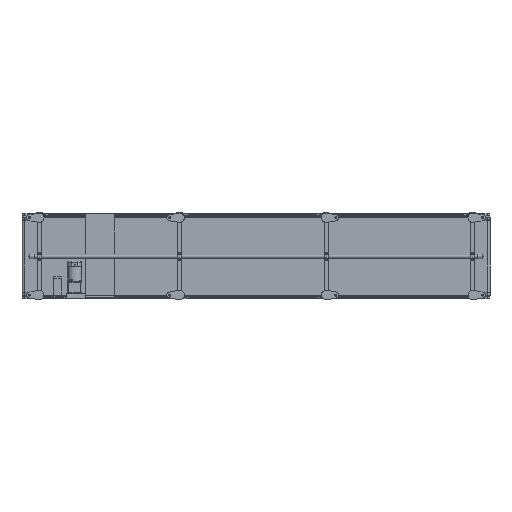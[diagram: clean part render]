
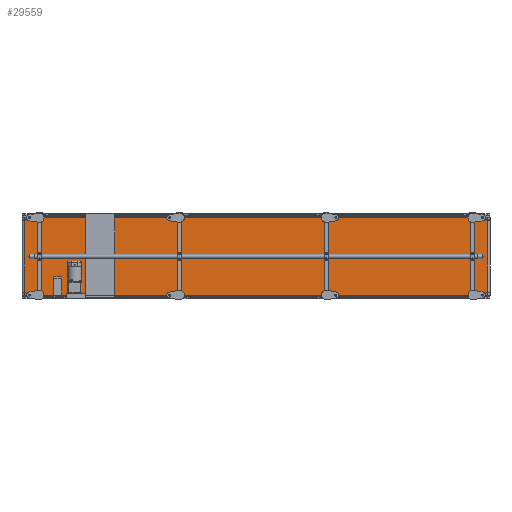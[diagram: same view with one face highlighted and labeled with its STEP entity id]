
A CAD part, front view. The second image highlights one B-rep face of the part: STEP entity #29559.
In plain terms, the highlighted planar face has unit normal (0, -1, 0).
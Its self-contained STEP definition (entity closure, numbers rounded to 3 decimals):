
#1798 = VERTEX_POINT ( 'NONE', #70794 ) ;
#3477 = EDGE_CURVE ( 'NONE', #1798, #60567, #24602, .T. ) ;
#4283 = CARTESIAN_POINT ( 'NONE',  ( 14., -26.8, 250. ) ) ;
#11231 = PLANE ( 'NONE',  #86926 ) ;
#12073 = DIRECTION ( 'NONE',  ( 0., 0., -1. ) ) ;
#12239 = DIRECTION ( 'NONE',  ( 0., 1., 0. ) ) ;
#18329 = DIRECTION ( 'NONE',  ( 1., 0., 0. ) ) ;
#23725 = ORIENTED_EDGE ( 'NONE', *, *, #3477, .F. ) ;
#24602 = LINE ( 'NONE', #27069, #81873 ) ;
#24962 = EDGE_CURVE ( 'NONE', #86060, #42341, #78258, .T. ) ;
#26690 = CARTESIAN_POINT ( 'NONE',  ( 14., -26.8, -250. ) ) ;
#27069 = CARTESIAN_POINT ( 'NONE',  ( 2986., -26.8, 250. ) ) ;
#29559 = ADVANCED_FACE ( 'NONE', ( #63523 ), #11231, .F. ) ;
#37656 = DIRECTION ( 'NONE',  ( 0., 0., -1. ) ) ;
#39169 = DIRECTION ( 'NONE',  ( 1., 0., 0. ) ) ;
#39334 = EDGE_CURVE ( 'NONE', #86060, #1798, #101566, .T. ) ;
#42341 = VERTEX_POINT ( 'NONE', #49187 ) ;
#48844 = EDGE_LOOP ( 'NONE', ( #69172, #23725, #54923, #79137 ) ) ;
#49187 = CARTESIAN_POINT ( 'NONE',  ( 14., -26.8, -250. ) ) ;
#53156 = CARTESIAN_POINT ( 'NONE',  ( 2986., -26.8, -250. ) ) ;
#53349 = CARTESIAN_POINT ( 'NONE',  ( 14., -26.8, 250. ) ) ;
#54923 = ORIENTED_EDGE ( 'NONE', *, *, #39334, .F. ) ;
#56096 = EDGE_CURVE ( 'NONE', #42341, #60567, #76646, .T. ) ;
#60567 = VERTEX_POINT ( 'NONE', #53156 ) ;
#62008 = VECTOR ( 'NONE', #37656, 1000. ) ;
#62158 = CARTESIAN_POINT ( 'NONE',  ( 14., -26.8, 250. ) ) ;
#63523 = FACE_OUTER_BOUND ( 'NONE', #48844, .T. ) ;
#69172 = ORIENTED_EDGE ( 'NONE', *, *, #56096, .T. ) ;
#70794 = CARTESIAN_POINT ( 'NONE',  ( 2986., -26.8, 250. ) ) ;
#74923 = DIRECTION ( 'NONE',  ( 0., 0., 1. ) ) ;
#76646 = LINE ( 'NONE', #26690, #87821 ) ;
#78258 = LINE ( 'NONE', #53349, #62008 ) ;
#79137 = ORIENTED_EDGE ( 'NONE', *, *, #24962, .T. ) ;
#79324 = CARTESIAN_POINT ( 'NONE',  ( 14., -26.8, 250. ) ) ;
#81792 = VECTOR ( 'NONE', #39169, 1000. ) ;
#81873 = VECTOR ( 'NONE', #12073, 1000. ) ;
#86060 = VERTEX_POINT ( 'NONE', #79324 ) ;
#86926 = AXIS2_PLACEMENT_3D ( 'NONE', #4283, #12239, #74923 ) ;
#87821 = VECTOR ( 'NONE', #18329, 1000. ) ;
#101566 = LINE ( 'NONE', #62158, #81792 ) ;
